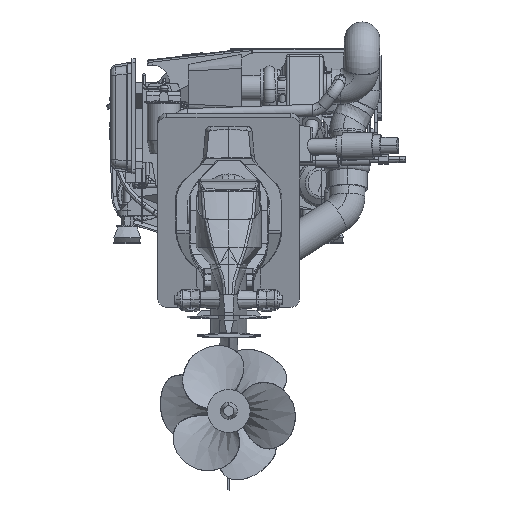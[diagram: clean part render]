
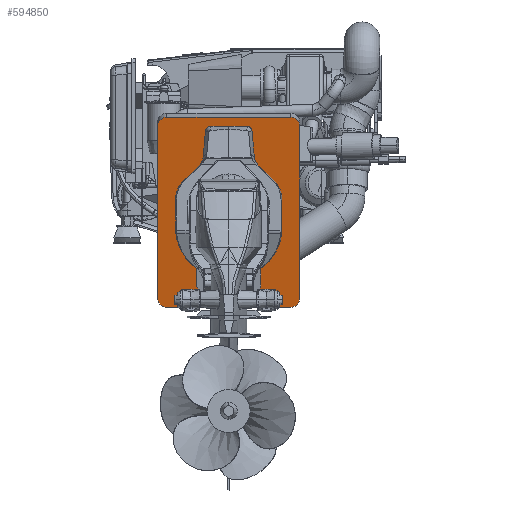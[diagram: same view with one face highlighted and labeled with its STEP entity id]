
A CAD part, top view. The second image highlights one B-rep face of the part: STEP entity #594850.
In plain terms, the highlighted planar face has unit normal (0, -0.225, 0.974) as drawn and (0.99, 0, -0.139) by its records, which use the part's own axes.
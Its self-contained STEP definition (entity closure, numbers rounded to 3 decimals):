
#592170=CARTESIAN_POINT('',(706.81,-168.271,
157.039));
#592180=VERTEX_POINT('',#592170);
#592210=CARTESIAN_POINT('',(684.739,-168.271,0.));
#592220=DIRECTION('',(0.139,0.,0.99));
#592230=VECTOR('',#592220,1.);
#592240=LINE('',#592210,#592230);
#592250=CARTESIAN_POINT('',(637.335,-168.271,
-337.303));
#592260=VERTEX_POINT('',#592250);
#592270=EDGE_CURVE('',#592260,#592180,#592240,.T.);
#592430=CARTESIAN_POINT('',(710.345,0.,182.191));
#592440=DIRECTION('',(0.,1.,0.));
#592450=VECTOR('',#592440,1.);
#592460=LINE('',#592430,#592450);
#592470=CARTESIAN_POINT('',(710.345,-142.871,
182.191));
#592480=VERTEX_POINT('',#592470);
#592490=CARTESIAN_POINT('',(710.345,206.329,
182.191));
#592500=VERTEX_POINT('',#592490);
#592510=EDGE_CURVE('',#592480,#592500,#592460,.T.);
#592830=CARTESIAN_POINT('',(684.739,231.729,0.));
#592840=DIRECTION('',(-0.139,0.,-0.99));
#592850=VECTOR('',#592840,1.);
#592860=LINE('',#592830,#592850);
#592870=CARTESIAN_POINT('',(706.81,231.729,
157.039));
#592880=VERTEX_POINT('',#592870);
#592890=CARTESIAN_POINT('',(637.335,231.729,
-337.303));
#592900=VERTEX_POINT('',#592890);
#592910=EDGE_CURVE('',#592880,#592900,#592860,.T.);
#593270=CARTESIAN_POINT('',(633.8,206.329,
-362.456));
#593280=VERTEX_POINT('',#593270);
#593450=CARTESIAN_POINT('',(633.8,-142.871,
-362.456));
#593460=VERTEX_POINT('',#593450);
#593490=CARTESIAN_POINT('',(633.8,0.,-362.456));
#593500=DIRECTION('',(0.,-1.,0.));
#593510=VECTOR('',#593500,1.);
#593520=LINE('',#593490,#593510);
#593530=EDGE_CURVE('',#593280,#593460,#593520,.T.);
#593710=CARTESIAN_POINT('',(706.81,206.329,
157.039));
#593720=DIRECTION('',(-0.99,0.,0.139));
#593730=DIRECTION('',(0.139,0.,0.99));
#593740=AXIS2_PLACEMENT_3D('',#593710,#593720,#593730);
#593750=CIRCLE('',#593740,25.4);
#593760=EDGE_CURVE('',#592500,#592880,#593750,.T.);
#593950=CARTESIAN_POINT('',(706.81,-142.871,
157.039));
#593960=DIRECTION('',(-0.99,0.,0.139));
#593970=DIRECTION('',(0.139,0.,0.99));
#593980=AXIS2_PLACEMENT_3D('',#593950,#593960,#593970);
#593990=CIRCLE('',#593980,25.4);
#594000=EDGE_CURVE('',#592180,#592480,#593990,.T.);
#594190=CARTESIAN_POINT('',(637.335,206.329,
-337.303));
#594200=DIRECTION('',(-0.99,0.,0.139));
#594210=DIRECTION('',(0.139,0.,0.99));
#594220=AXIS2_PLACEMENT_3D('',#594190,#594200,#594210);
#594230=CIRCLE('',#594220,25.4);
#594240=EDGE_CURVE('',#592900,#593280,#594230,.T.);
#594350=CARTESIAN_POINT('',(637.335,-142.871,
-337.303));
#594360=DIRECTION('',(-0.99,0.,0.139));
#594370=DIRECTION('',(0.139,0.,0.99));
#594380=AXIS2_PLACEMENT_3D('',#594350,#594360,#594370);
#594390=CIRCLE('',#594380,25.4);
#594400=EDGE_CURVE('',#593460,#592260,#594390,.T.);
#594700=CARTESIAN_POINT('',(633.73,232.229,
-362.951));
#594710=DIRECTION('',(0.99,0.,-0.139));
#594720=DIRECTION('',(-0.139,0.,-0.99));
#594730=AXIS2_PLACEMENT_3D('',#594700,#594710,#594720);
#594740=PLANE('',#594730);
#594750=ORIENTED_EDGE('',*,*,#592910,.F.);
#594760=ORIENTED_EDGE('',*,*,#594240,.F.);
#594770=ORIENTED_EDGE('',*,*,#593530,.F.);
#594780=ORIENTED_EDGE('',*,*,#594400,.F.);
#594790=ORIENTED_EDGE('',*,*,#592270,.F.);
#594800=ORIENTED_EDGE('',*,*,#594000,.F.);
#594810=ORIENTED_EDGE('',*,*,#592510,.F.);
#594820=ORIENTED_EDGE('',*,*,#593760,.F.);
#594830=EDGE_LOOP('',(#594820,#594810,#594800,#594790,#594780,#594770,
#594760,#594750));
#594840=FACE_OUTER_BOUND('',#594830,.T.);
#594850=ADVANCED_FACE('',(#594840),#594740,.T.);
